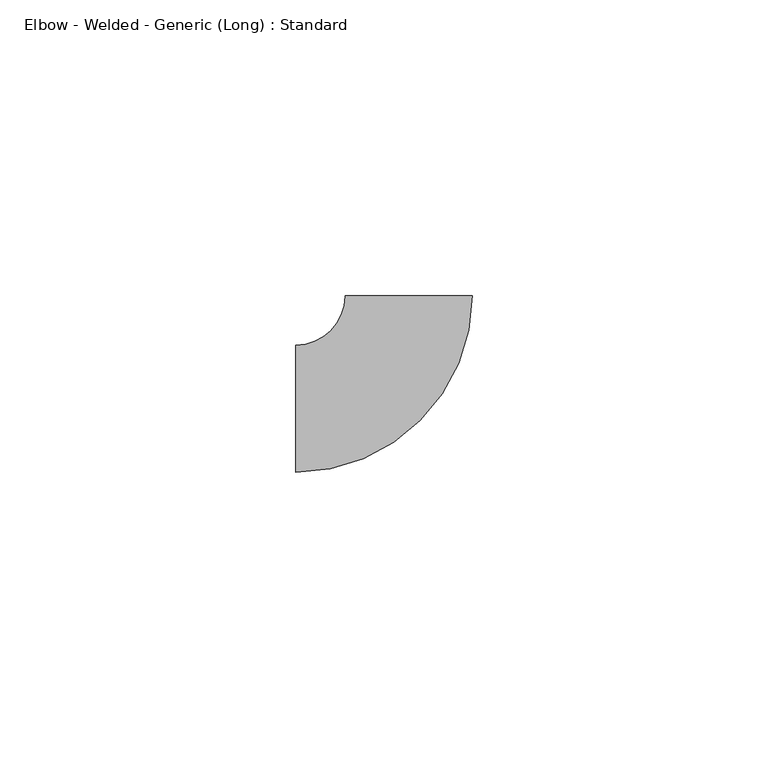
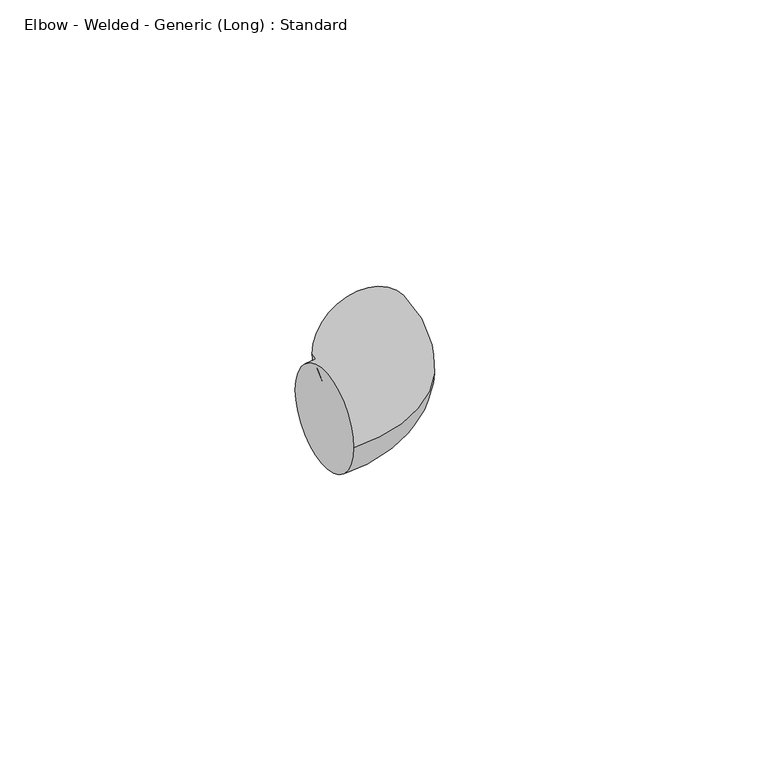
"""IFC4 building model written with IfcOpenShell, lengths in millimetres: pipe fitting geometry, Elbow - Welded - Generic (Long) : Standard."""

import ifcopenshell
import ifcopenshell.guid

model = None  # the IFC model being written
_history = None  # IfcOwnerHistory: only IFC2X3 demands one
_inside = {}  # id of a spatial element -> (the spatial element, [elements in it])
_under = {}  # id of a project, library or spatial element -> (it, [spatial elements below it])
_declared = {}  # id of a project -> (the project, [libraries it declares])
_typed = {}  # id of a type object -> (the type object, [elements of that type])
_made_of = {}  # id of a material, layer set ... -> (it, [elements and type objects made of it])


def new_model(schema):
    """Start an empty IFC model of exactly this schema.

    Asked for "IFC4X3", IfcOpenShell would pick the latest addendum, in which some entities
    have other attributes; the version numbers below select the first issue.
    IFC2X3 requires an IfcOwnerHistory on every rooted entity: one is made here for all.
    """
    global model, _history
    if schema == "IFC4X3":
        model = ifcopenshell.file(schema_version=(4, 3, 0, 0))
    else:
        model = ifcopenshell.file(schema=schema)
    _inside.clear()
    _under.clear()
    _declared.clear()
    _typed.clear()
    _made_of.clear()
    _history = None
    if model.schema == "IFC2X3":
        org = make("IfcOrganization", Name="unknown")
        user = make(
            "IfcPersonAndOrganization",
            ThePerson=make("IfcPerson", FamilyName="unknown"),
            TheOrganization=org,
        )
        app = make(
            "IfcApplication",
            ApplicationDeveloper=org,
            Version="unknown",
            ApplicationFullName="unknown",
            ApplicationIdentifier="unknown",
        )
        _history = make(
            "IfcOwnerHistory",
            OwningUser=user,
            OwningApplication=app,
            ChangeAction="ADDED",
            CreationDate=0,
        )
    return model


def make(cls, **values):
    """One entity of the class cls with the attributes given. An attribute that is None is left unset."""
    return model.create_entity(
        cls, **{name: value for name, value in values.items() if value is not None}
    )


def rooted(cls, **values):
    """An entity with a GlobalId (a new one), such as an element, a storey or a relation."""
    return make(cls, GlobalId=ifcopenshell.guid.new(), OwnerHistory=_history, **values)


def si_unit(unit_type, name, prefix=None):
    """IfcSIUnit, for example si_unit("LENGTHUNIT", "METRE", prefix="MILLI")."""
    return make("IfcSIUnit", UnitType=unit_type, Prefix=prefix, Name=name)


def assignment(units):
    """IfcUnitAssignment: the units of a project."""
    return None if units is None else make("IfcUnitAssignment", Units=units)


def point(xyz):
    """IfcCartesianPoint."""
    return None if xyz is None else make("IfcCartesianPoint", Coordinates=xyz)


def direction(xyz):
    """IfcDirection."""
    return None if xyz is None else make("IfcDirection", DirectionRatios=xyz)


def frame(location, z_axis=None, x_axis=None):
    """IfcAxis2Placement3D, a coordinate frame: its origin and axes. An axis left out is left unset."""
    return make(
        "IfcAxis2Placement3D",
        Location=point(location),
        Axis=direction(z_axis),
        RefDirection=direction(x_axis),
    )


def origin():
    """The frame at (0, 0, 0) with its axes left unset."""
    return frame((0.0, 0.0, 0.0))


def place(relative_to, where):
    """IfcLocalPlacement: puts the frame where relative to a parent placement (None: the world)."""
    return make(
        "IfcLocalPlacement", PlacementRelTo=relative_to, RelativePlacement=where
    )


def context(
    kind, dimensions, precision=None, world=None, true_north=None, identifier=None
):
    """IfcGeometricRepresentationContext, for example the 3D "Model" context."""
    return make(
        "IfcGeometricRepresentationContext",
        ContextIdentifier=identifier,
        ContextType=kind,
        CoordinateSpaceDimension=dimensions,
        Precision=precision,
        WorldCoordinateSystem=world,
        TrueNorth=true_north,
    )


def project(units=None, contexts=None):
    """IfcProject with its units and contexts."""
    return rooted(
        "IfcProject",
        Name="project",
        RepresentationContexts=contexts,
        UnitsInContext=assignment(units),
    )


def spatial(cls, under=None, at=None, **own):
    """A site, building, storey or space (cls), placed at a placement, below another one or the project."""
    s = rooted(cls, ObjectPlacement=at, **own)
    if under is not None:
        _under.setdefault(under.id(), (under, []))[1].append(s)
    return s


def circle_curve(where, radius):
    """IfcCircle in the frame where."""
    return make("IfcCircle", Position=where, Radius=radius)


def ellipse_curve(where, semi_axis1, semi_axis2):
    """IfcEllipse in the frame where."""
    return make(
        "IfcEllipse", Position=where, SemiAxis1=semi_axis1, SemiAxis2=semi_axis2
    )


def trimmed(basis, trim1, trim2, sense, master):
    """IfcTrimmedCurve: the piece of a basis curve between two trims."""
    return make(
        "IfcTrimmedCurve",
        BasisCurve=basis,
        Trim1=trim1,
        Trim2=trim2,
        SenseAgreement=sense,
        MasterRepresentation=master,
    )


def shape(context_of_items, identifier, shape_type, items):
    """IfcShapeRepresentation: the items that make up one representation, for example the "Body"."""
    return make(
        "IfcShapeRepresentation",
        ContextOfItems=context_of_items,
        RepresentationIdentifier=identifier,
        RepresentationType=shape_type,
        Items=items,
    )


def source(mapping_origin, context_of_items, identifier, shape_type, items):
    """IfcRepresentationMap: a shape defined once, which mapped items show again and again."""
    return make(
        "IfcRepresentationMap",
        MappingOrigin=mapping_origin,
        MappedRepresentation=shape(context_of_items, identifier, shape_type, items),
    )


def transform(
    local_origin,
    x_axis=None,
    y_axis=None,
    z_axis=None,
    scale=None,
    scale2=None,
    scale3=None,
    uniform=True,
):
    """IfcCartesianTransformationOperator3D, or its non-uniform kind. x_axis, y_axis, z_axis: its Axis1, 2, 3."""
    if uniform:
        return make(
            "IfcCartesianTransformationOperator3D",
            Axis1=direction(x_axis),
            Axis2=direction(y_axis),
            LocalOrigin=point(local_origin),
            Scale=scale,
            Axis3=direction(z_axis),
        )
    return make(
        "IfcCartesianTransformationOperator3DnonUniform",
        Axis1=direction(x_axis),
        Axis2=direction(y_axis),
        LocalOrigin=point(local_origin),
        Scale=scale,
        Axis3=direction(z_axis),
        Scale2=scale2,
        Scale3=scale3,
    )


def mapped(mapping_source, mapping_target):
    """IfcMappedItem: shows the shape of a source again, moved by a transform."""
    return make(
        "IfcMappedItem", MappingSource=mapping_source, MappingTarget=mapping_target
    )


def made_of(thing, what):
    """Note that an element or type object is made of a material, layer set ...; save() writes the relation."""
    if what is not None:
        _made_of.setdefault(what.id(), (what, []))[1].append(thing)
    return thing


def element(
    cls,
    number,
    at=None,
    inside=None,
    cuts=None,
    type_object=None,
    material=None,
    context=None,
    identifier="Body",
    shape_type=None,
    held_by="IfcProductDefinitionShape",
    body=None,
    shapes=None,
    **own,
):
    """One element of the class cls, such as IfcWall. Its Tag is "e" and its number.

    at: its placement. inside: the storey or other place that contains it. cuts: it is an
    opening in that element (IfcRelVoidsElement). A single representation is given by context,
    identifier, shape_type and body (its items); several are given by shapes. held_by: the class
    of the entity that holds the representations. save() writes the other relations.
    """
    e = rooted(cls, Tag="e%d" % number, ObjectPlacement=at, **own)
    if body is not None:
        shapes = [shape(context, identifier, shape_type, body)]
    if shapes is not None:
        e.Representation = make(held_by, Representations=shapes)
    if inside is not None:
        _inside.setdefault(inside.id(), (inside, []))[1].append(e)
    if cuts is not None:
        rooted(
            "IfcRelVoidsElement", RelatingBuildingElement=cuts, RelatedOpeningElement=e
        )
    if type_object is not None:
        _typed.setdefault(type_object.id(), (type_object, []))[1].append(e)
    return made_of(e, material)


def aggregate(whole, parts):
    """IfcRelAggregates: a whole, such as a stair, and the parts it consists of."""
    return rooted("IfcRelAggregates", RelatingObject=whole, RelatedObjects=parts)


def save(model, path):
    """Write the relations noted so far, then the file.

    IfcRelAggregates (storeys below a building ...), IfcRelContainedInSpatialStructure (elements
    in a storey), IfcRelDefinesByType, IfcRelAssociatesMaterial and IfcRelDeclares: one each for
    every whole, place, type object, material and project.
    """
    for whole, parts in _under.values():
        aggregate(whole, parts)
    for where, things in _inside.values():
        rooted(
            "IfcRelContainedInSpatialStructure",
            RelatedElements=things,
            RelatingStructure=where,
        )
    for kind, things in _typed.values():
        rooted("IfcRelDefinesByType", RelatedObjects=things, RelatingType=kind)
    for what, things in _made_of.values():
        rooted("IfcRelAssociatesMaterial", RelatedObjects=things, RelatingMaterial=what)
    for by, libraries in _declared.values():
        rooted("IfcRelDeclares", RelatingContext=by, RelatedDefinitions=libraries)
    model.write(path)


def plane_surface(at):
    """IfcPlane: the flat surface through the origin of the frame at, square to its z axis."""
    return make("IfcPlane", Position=at)


def revolved_surface(curve, axis_point, axis_direction):
    """IfcSurfaceOfRevolution: the curve turned about the line through axis_point along axis_direction."""
    return make(
        "IfcSurfaceOfRevolution",
        SweptCurve=make("IfcArbitraryOpenProfileDef", ProfileType="CURVE", Curve=curve),
        AxisPosition=make("IfcAxis1Placement", Location=point(axis_point), Axis=direction(axis_direction)),
    )


def advanced_brep(points, edges, surfaces, faces):
    """IfcAdvancedBrep: a solid bounded by faces that lie on surfaces and meet in shared edges.

    An edge is (start, end): straight between two places in points (the first is 0);
    or (start, end, curve); or (start, end, curve, False) where it runs against its curve.
    A face is (place in surfaces, loops), or (place, loops, False) where it looks against
    its surface's normal. A loop lists edges by number (the first is 1), with a minus sign
    where the edge is run from its end to its start. The first loop is the outer one.
    """
    corners = [point(p) for p in points]
    vertices = [make("IfcVertexPoint", VertexGeometry=c) for c in corners]
    made = []
    for start, end, *more in edges:
        made.append(
            make(
                "IfcEdgeCurve",
                EdgeStart=vertices[start],
                EdgeEnd=vertices[end],
                EdgeGeometry=more[0] if more else make("IfcPolyline", Points=[corners[start], corners[end]]),
                SameSense=more[1] if len(more) > 1 else True,
            )
        )
    hull = []
    for where, loops, *sense in faces:
        bounds = []
        for j, loop in enumerate(loops):
            ring = [make("IfcOrientedEdge", EdgeElement=made[abs(k) - 1], Orientation=k > 0) for k in loop]
            bounds.append(
                make(
                    "IfcFaceOuterBound" if j == 0 else "IfcFaceBound",
                    Bound=make("IfcEdgeLoop", EdgeList=ring),
                    Orientation=True,
                )
            )
        hull.append(make("IfcAdvancedFace", Bounds=bounds, FaceSurface=surfaces[where], SameSense=sense[0] if sense else True))
    return make("IfcAdvancedBrep", Outer=make("IfcClosedShell", CfsFaces=hull))


def elbow_welded_generic_long_standard_879a4486(model_context):
    return source(origin(), model_context, "Body", "AdvancedBrep", [
        advanced_brep(
        [(-19.05, -10.715625, 0.0), (-19.05, 10.715625, 0.0), (10.715625, 19.05, 0.0), (-10.715625, 19.05, 0.0)],
        [
            (0, 1, circle_curve(frame((-19.05, 0.0, 0.0), z_axis=(-1.0, 0.0, 0.0), x_axis=(0.0, 1.0, 0.0)), 10.715625)),
            (1, 0, circle_curve(frame((-19.05, 0.0, 0.0), z_axis=(-1.0, 0.0, 0.0), x_axis=(0.0, 1.0, 0.0)), 10.715625)),
            (2, 3, circle_curve(frame((0.0, 19.05, 0.0), z_axis=(0.0, 1.0, 0.0), x_axis=(-1.0, 0.0, 0.0)), 10.715625)),
            (3, 2, circle_curve(frame((0.0, 19.05, 0.0), z_axis=(0.0, 1.0, 0.0), x_axis=(-1.0, 0.0, 0.0)), 10.715625)),
            (3, 1, circle_curve(frame((-19.05, 19.05, 0.0), z_axis=(0.0, 0.0, -1.0), x_axis=(0.0, -1.0, 0.0)), 8.334375)),
            (0, 2, circle_curve(frame((-19.05, 19.05, 0.0), z_axis=(0.0, 0.0, 1.0), x_axis=(0.0, -1.0, 0.0)), 29.765625)),
        ],
        [
            plane_surface(frame((-19.05, 0.0, 0.0), z_axis=(-1.0, 0.0, 0.0), x_axis=(0.0, 0.0, 1.0))),
            plane_surface(frame((0.0, 19.05, 0.0), z_axis=(0.0, 1.0, 0.0), x_axis=(0.0, 0.0, 1.0))),
            revolved_surface(trimmed(ellipse_curve(frame((-19.05, 0.0, 0.0), z_axis=(-1.0, 0.0, 0.0), x_axis=(0.0, 1.0, 0.0)), 10.715625, 10.715625), [point((-19.05, -10.715625, 0.0))], [point((-19.05, 10.715625, 0.0))], True, "CARTESIAN"), (-19.05, 19.05, 0.0), (0.0, 0.0, 1.0)),
            revolved_surface(trimmed(ellipse_curve(frame((-19.05, 0.0, 0.0), z_axis=(-1.0, 0.0, 0.0), x_axis=(0.0, 1.0, 0.0)), 10.715625, 10.715625), [point((-19.05, 10.715625, 0.0))], [point((-19.05, -10.715625, 0.0))], True, "CARTESIAN"), (-19.05, 19.05, 0.0), (0.0, 0.0, 1.0)),
        ],
        [
            (0, [[1, 2]]),
            (1, [[3, 4]]),
            (2, [[5, -1, 6, -4]]),
            (3, [[-6, -2, -5, -3]]),
        ],
    ),
    ])


if __name__ == "__main__":
    model = new_model("IFC4")
    model_context = context("Model", 3, world=origin())
    ifc_project = project(units=[si_unit("LENGTHUNIT", "METRE", prefix="MILLI")], contexts=[model_context])
    site = spatial("IfcSite", under=ifc_project)
    building = spatial("IfcBuilding", under=site)
    placement = place(None, origin())
    elbow_welded_generic_long_standard_shape = elbow_welded_generic_long_standard_879a4486(model_context)
    element("IfcPipeFitting", 1, ObjectType="Elbow - Welded - Generic (Long) : Standard", at=placement, inside=building, context=model_context, shape_type="MappedRepresentation", body=[
        mapped(elbow_welded_generic_long_standard_shape, transform((0.0, 0.0, 0.0), x_axis=(1.0, 0.0, 0.0), y_axis=(0.0, 1.0, 0.0), z_axis=(0.0, 0.0, 1.0))),
    ])
    save(model, "model.ifc")
